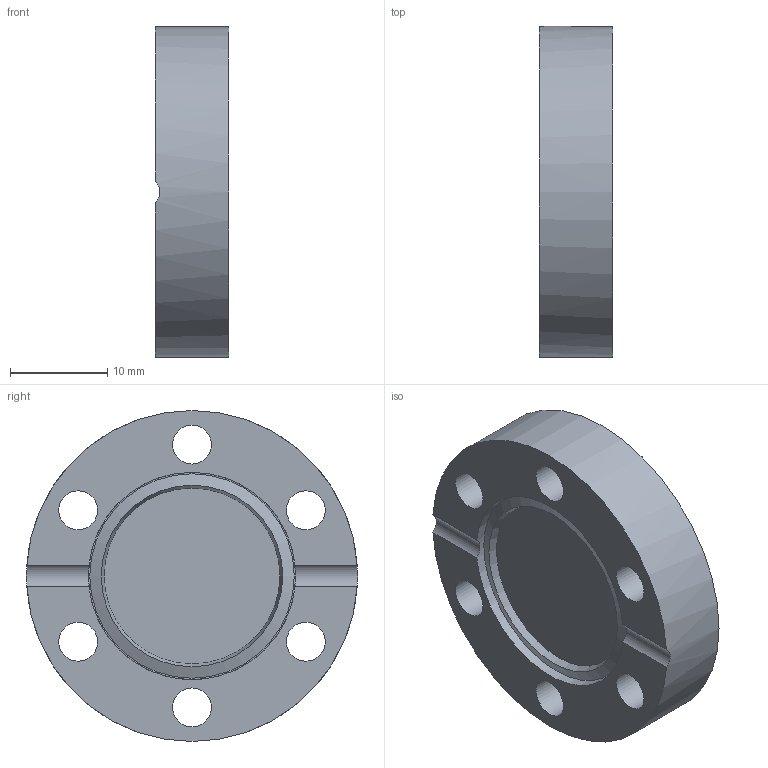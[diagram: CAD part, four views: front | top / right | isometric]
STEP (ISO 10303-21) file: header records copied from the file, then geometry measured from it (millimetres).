
FILE_DESCRIPTION( ( 'Unknown' ), '1' );
FILE_NAME( 'X:/Daten ( aktueller Bestand )/Projekte und Zeichnungen/Solid Edge/STP-Dateien/CF-Teile/7421RG.stp', 'Unknown', ( 'Unknown' ), ( 'Unknown' ), 'PSStep 14.0', 'Unknown', ' ' );
FILE_SCHEMA( ( 'AUTOMOTIVE_DESIGN { 1 0 10303 214 1 1 1 1 }' ) );
Length unit declared in the file: millimetre
Products named in the file (3): Assem1; 7421R-2; 7421RG-1
Assembly tree (2 placements, depth 2):
  Assem1
    7421R-2
    7421RG-1
Bounding box: 7.6 x 34 x 34 mm (x, y, z)
Volume: 5485 mm3; surface area: 4066.7 mm2
Topology: 2 solids, 2 shells, 20 faces, 52 edges, 36 vertices
Faces by surface type: cylinder 12, plane 6, cone 2
Full cylindrical faces by diameter (mm): 4 x6, 19 x1, 21 x1, 21.3 x1, 34 x1
Entity records: 786 total; most frequent: CARTESIAN_POINT 135, DIRECTION 98, ORIENTED_EDGE 64, AXIS2_PLACEMENT_3D 47, EDGE_LOOP 46, EDGE_CURVE 32, FACE_OUTER_BOUND 30, VERTEX_POINT 28
